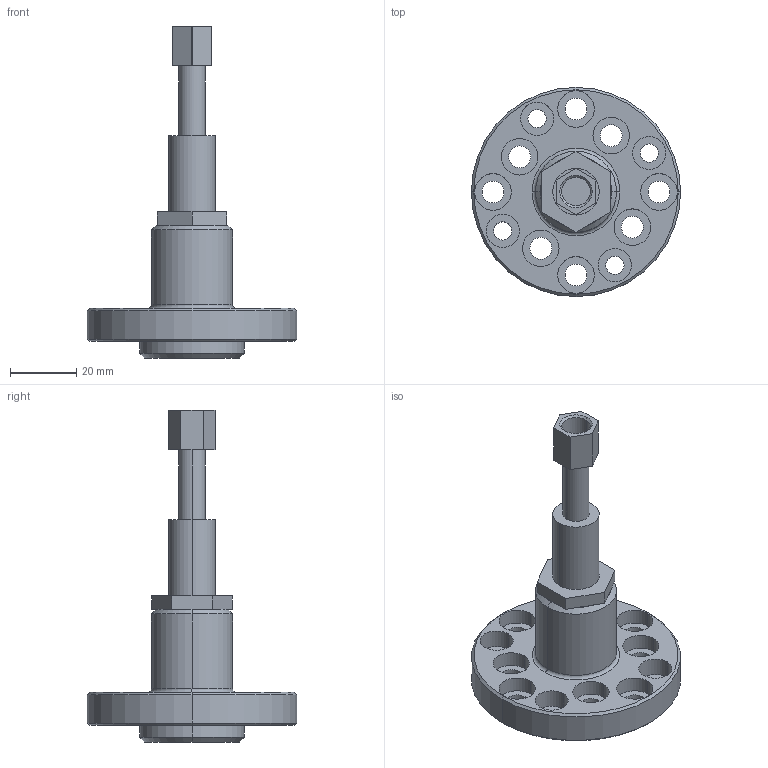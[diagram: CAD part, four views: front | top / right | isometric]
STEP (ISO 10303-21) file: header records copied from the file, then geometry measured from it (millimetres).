
FILE_DESCRIPTION (( 'STEP AP214' ), '1' );
FILE_NAME ('FCM_S01_01_01_.STEP', '2019-12-04T09:22:47', ( '微软用户' ), ( '微软中国' ), 'SwSTEP 2.0', 'SolidWorks 2016', '' );
FILE_SCHEMA (( 'AUTOMOTIVE_DESIGN' ));
Length unit declared in the file: millimetre
Products named in the file (1): FCM_S01_01_01_
Bounding box: 63 x 63 x 100 mm (x, y, z)
Volume: 42350.4 mm3; surface area: 19109.3 mm2
Topology: 2 solids, 2 shells, 133 faces, 306 edges, 198 vertices
Faces by surface type: cylinder 72, plane 43, cone 16, torus 2
Entity records: 5382 total; most frequent: DIRECTION 734, CARTESIAN_POINT 648, ORIENTED_EDGE 612, EDGE_CURVE 306, AXIS2_PLACEMENT_3D 296, VERTEX_POINT 198, EDGE_LOOP 180, CIRCLE 162
